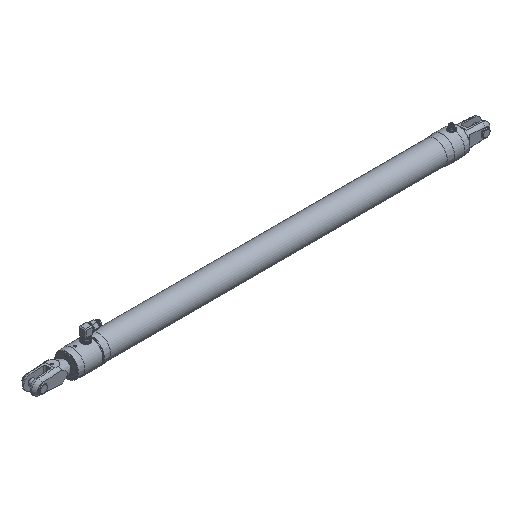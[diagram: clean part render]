
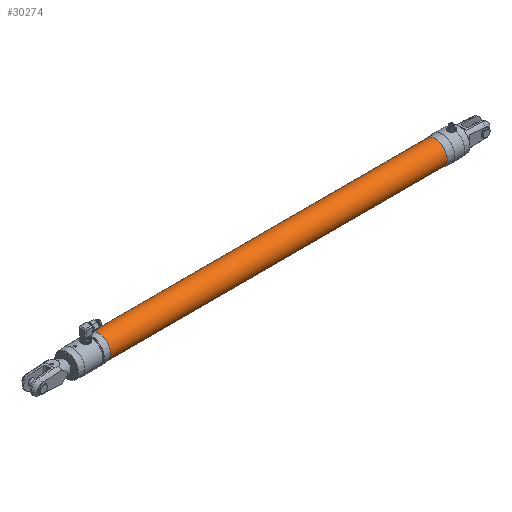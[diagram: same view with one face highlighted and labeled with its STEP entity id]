
A CAD part, isometric view. The second image highlights one B-rep face of the part: STEP entity #30274.
In plain terms, the highlighted cylindrical face has radius 29.2 mm (diameter 58.4 mm), a full revolution.
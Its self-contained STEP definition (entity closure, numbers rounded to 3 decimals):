
#367=FACE_BOUND('',#5465,.T.);
#2186=CYLINDRICAL_SURFACE('',#31479,29.2);
#3672=FACE_OUTER_BOUND('',#5464,.T.);
#5464=EDGE_LOOP('',(#25711));
#5465=EDGE_LOOP('',(#25712));
#11104=CIRCLE('',#31478,29.2);
#11105=CIRCLE('',#31480,29.2);
#13766=VERTEX_POINT('',#55150);
#13767=VERTEX_POINT('',#55153);
#17793=EDGE_CURVE('',#13766,#13766,#11104,.T.);
#17794=EDGE_CURVE('',#13767,#13767,#11105,.T.);
#25711=ORIENTED_EDGE('',*,*,#17794,.T.);
#25712=ORIENTED_EDGE('',*,*,#17793,.F.);
#30274=ADVANCED_FACE('',(#3672,#367),#2186,.T.);
#31478=AXIS2_PLACEMENT_3D('',#55151,#36311,#36312);
#31479=AXIS2_PLACEMENT_3D('',#55152,#36313,#36314);
#31480=AXIS2_PLACEMENT_3D('',#55154,#36315,#36316);
#36311=DIRECTION('center_axis',(1.,0.,0.));
#36312=DIRECTION('ref_axis',(0.,0.,-1.));
#36313=DIRECTION('center_axis',(1.,0.,0.));
#36314=DIRECTION('ref_axis',(0.,0.,
1.));
#36315=DIRECTION('center_axis',(1.,0.,0.));
#36316=DIRECTION('ref_axis',(0.,0.,-1.));
#55150=CARTESIAN_POINT('',(-38.402,0.,29.2));
#55151=CARTESIAN_POINT('Origin',(-38.402,0.,
0.));
#55152=CARTESIAN_POINT('Origin',(-457.818,0.,
0.));
#55153=CARTESIAN_POINT('',(-877.234,0.,29.2));
#55154=CARTESIAN_POINT('Origin',(-877.234,0.,
0.));
